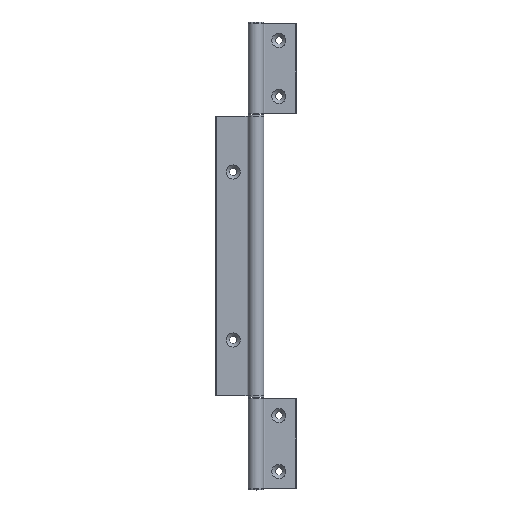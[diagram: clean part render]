
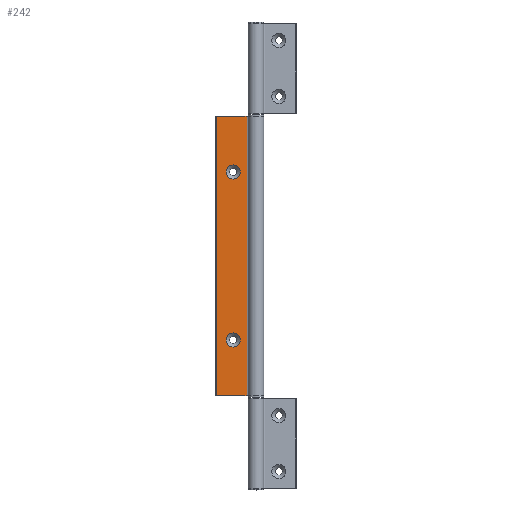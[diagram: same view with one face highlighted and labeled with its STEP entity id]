
A CAD part, top view. The second image highlights one B-rep face of the part: STEP entity #242.
In plain terms, the highlighted planar face has unit normal (0, 0, 1).
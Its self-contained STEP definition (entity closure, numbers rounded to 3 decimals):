
#242 = ADVANCED_FACE( '', ( #380, #381, #382 ), #383, .F. );
#380 = FACE_BOUND( '', #601, .T. );
#381 = FACE_BOUND( '', #602, .T. );
#382 = FACE_OUTER_BOUND( '', #603, .T. );
#383 = PLANE( '', #604 );
#601 = EDGE_LOOP( '', ( #1031 ) );
#602 = EDGE_LOOP( '', ( #1032 ) );
#603 = EDGE_LOOP( '', ( #1033, #1034, #1035, #1036 ) );
#604 = AXIS2_PLACEMENT_3D( '', #1037, #1038, #1039 );
#1031 = ORIENTED_EDGE( '', *, *, #1484, .F. );
#1032 = ORIENTED_EDGE( '', *, *, #1485, .F. );
#1033 = ORIENTED_EDGE( '', *, *, #1464, .T. );
#1034 = ORIENTED_EDGE( '', *, *, #1483, .F. );
#1035 = ORIENTED_EDGE( '', *, *, #1441, .F. );
#1036 = ORIENTED_EDGE( '', *, *, #1486, .T. );
#1037 = CARTESIAN_POINT( '', ( -35.5, 250., -3.5 ) );
#1038 = DIRECTION( '', ( 0., 0., -1. ) );
#1039 = DIRECTION( '', ( -1., 0., 0. ) );
#1441 = EDGE_CURVE( '', #1676, #1678, #1679, .T. );
#1464 = EDGE_CURVE( '', #1723, #1721, #1724, .T. );
#1483 = EDGE_CURVE( '', #1678, #1721, #1751, .T. );
#1484 = EDGE_CURVE( '', #1752, #1752, #1753, .T. );
#1485 = EDGE_CURVE( '', #1754, #1754, #1755, .T. );
#1486 = EDGE_CURVE( '', #1676, #1723, #1756, .T. );
#1676 = VERTEX_POINT( '', #2039 );
#1678 = VERTEX_POINT( '', #2041 );
#1679 = LINE( '', #2042, #2043 );
#1721 = VERTEX_POINT( '', #2098 );
#1723 = VERTEX_POINT( '', #2100 );
#1724 = LINE( '', #2101, #2102 );
#1751 = LINE( '', #2140, #2141 );
#1752 = VERTEX_POINT( '', #2142 );
#1753 = CIRCLE( '', #2143, 6.3 );
#1754 = VERTEX_POINT( '', #2144 );
#1755 = CIRCLE( '', #2145, 6.3 );
#1756 = LINE( '', #2146, #2147 );
#2039 = CARTESIAN_POINT( '', ( -35.5, 250., -3.5 ) );
#2041 = CARTESIAN_POINT( '', ( -8., 250., -3.5 ) );
#2042 = CARTESIAN_POINT( '', ( -35.5, 250., -3.5 ) );
#2043 = VECTOR( '', #2447, 1000. );
#2098 = CARTESIAN_POINT( '', ( -8., 0., -3.5 ) );
#2100 = CARTESIAN_POINT( '', ( -35.5, 0., -3.5 ) );
#2101 = CARTESIAN_POINT( '', ( -35.5, 0., -3.5 ) );
#2102 = VECTOR( '', #2488, 1000. );
#2140 = CARTESIAN_POINT( '', ( -8., 250., -3.5 ) );
#2141 = VECTOR( '', #2521, 1000. );
#2142 = CARTESIAN_POINT( '', ( -14.1, 200., -3.5 ) );
#2143 = AXIS2_PLACEMENT_3D( '', #2522, #2523, #2524 );
#2144 = CARTESIAN_POINT( '', ( -14.1, 50., -3.5 ) );
#2145 = AXIS2_PLACEMENT_3D( '', #2525, #2526, #2527 );
#2146 = CARTESIAN_POINT( '', ( -35.5, 250., -3.5 ) );
#2147 = VECTOR( '', #2528, 1000. );
#2447 = DIRECTION( '', ( 1., 0., 0. ) );
#2488 = DIRECTION( '', ( 1., 0., 0. ) );
#2521 = DIRECTION( '', ( 0., -1., 0. ) );
#2522 = CARTESIAN_POINT( '', ( -20.4, 200., -3.5 ) );
#2523 = DIRECTION( '', ( 0., 0., 1. ) );
#2524 = DIRECTION( '', ( 1., 0., 0. ) );
#2525 = CARTESIAN_POINT( '', ( -20.4, 50., -3.5 ) );
#2526 = DIRECTION( '', ( 0., 0., 1. ) );
#2527 = DIRECTION( '', ( 1., 0., 0. ) );
#2528 = DIRECTION( '', ( 0., -1., 0. ) );
